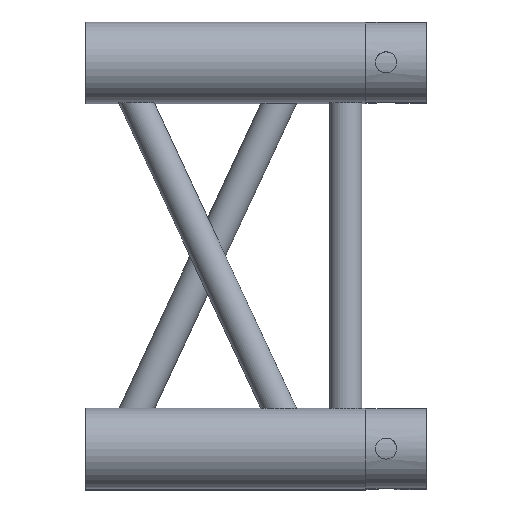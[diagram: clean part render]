
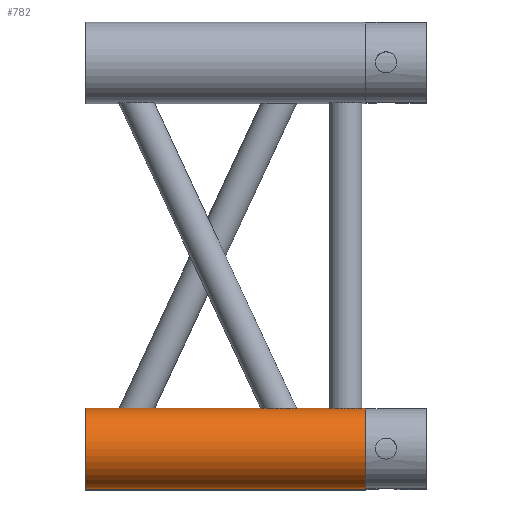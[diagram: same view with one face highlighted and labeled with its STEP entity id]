
A CAD part, top view. The second image highlights one B-rep face of the part: STEP entity #782.
In plain terms, the highlighted cylindrical face has radius 250 mm (diameter 500 mm), a full revolution.
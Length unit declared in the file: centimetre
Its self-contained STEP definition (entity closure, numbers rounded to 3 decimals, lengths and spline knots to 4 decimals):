
#62=CIRCLE('',#890,25.);
#63=CIRCLE('',#892,25.);
#98=FACE_BOUND('',#281,.T.);
#99=FACE_BOUND('',#282,.T.);
#100=FACE_BOUND('',#283,.T.);
#101=FACE_BOUND('',#284,.T.);
#102=FACE_BOUND('',#285,.T.);
#130=CYLINDRICAL_SURFACE('',#891,25.);
#188=FACE_OUTER_BOUND('',#280,.T.);
#280=EDGE_LOOP('',(#648));
#281=EDGE_LOOP('',(#649,#650));
#282=EDGE_LOOP('',(#651,#652));
#283=EDGE_LOOP('',(#653,#654));
#284=EDGE_LOOP('',(#655,#656));
#285=EDGE_LOOP('',(#657));
#319=LINE('',#1161,#335);
#323=LINE('',#1192,#339);
#328=LINE('',#1227,#344);
#333=LINE('',#1618,#349);
#335=VECTOR('',#923,10.);
#339=VECTOR('',#963,10.);
#344=VECTOR('',#1008,10.);
#349=VECTOR('',#1093,10.);
#353=VERTEX_POINT('',#1159);
#354=VERTEX_POINT('',#1160);
#362=VERTEX_POINT('',#1190);
#363=VERTEX_POINT('',#1191);
#372=VERTEX_POINT('',#1225);
#373=VERTEX_POINT('',#1226);
#398=VERTEX_POINT('',#1616);
#399=VERTEX_POINT('',#1617);
#406=VERTEX_POINT('',#1797);
#407=VERTEX_POINT('',#1800);
#420=EDGE_CURVE('',#353,#354,#319,.T.);
#433=EDGE_CURVE('',#362,#363,#323,.T.);
#448=EDGE_CURVE('',#372,#373,#328,.T.);
#478=EDGE_CURVE('',#398,#399,#333,.T.);
#488=EDGE_CURVE('',#406,#406,#62,.T.);
#489=EDGE_CURVE('',#407,#407,#63,.T.);
#648=ORIENTED_EDGE('',*,*,#488,.T.);
#649=ORIENTED_EDGE('',*,*,#420,.T.);
#650=ORIENTED_EDGE('',*,*,#420,.F.);
#651=ORIENTED_EDGE('',*,*,#433,.T.);
#652=ORIENTED_EDGE('',*,*,#433,.F.);
#653=ORIENTED_EDGE('',*,*,#448,.T.);
#654=ORIENTED_EDGE('',*,*,#448,.F.);
#655=ORIENTED_EDGE('',*,*,#478,.T.);
#656=ORIENTED_EDGE('',*,*,#478,.F.);
#657=ORIENTED_EDGE('',*,*,#489,.T.);
#782=ADVANCED_FACE('',(#188,#98,#99,#100,#101,#102),#130,.T.);
#890=AXIS2_PLACEMENT_3D('',#1798,#1118,#1119);
#891=AXIS2_PLACEMENT_3D('',#1799,#1120,#1121);
#892=AXIS2_PLACEMENT_3D('',#1801,#1122,#1123);
#923=DIRECTION('',(1.,0.,0.));
#963=DIRECTION('',(1.,0.,0.));
#1008=DIRECTION('',(1.,0.,0.));
#1093=DIRECTION('',(1.,0.,0.));
#1118=DIRECTION('center_axis',(1.,0.,0.));
#1119=DIRECTION('ref_axis',(0.,0.,
-1.));
#1120=DIRECTION('center_axis',(1.,0.,0.));
#1121=DIRECTION('ref_axis',(0.,0.,
-1.));
#1122=DIRECTION('center_axis',(-1.,0.,0.));
#1123=DIRECTION('ref_axis',(0.,0.,
-1.));
#1159=CARTESIAN_POINT('',(-60.3208,-239.,314.));
#1160=CARTESIAN_POINT('',(-39.6153,-239.,314.));
#1161=CARTESIAN_POINT('',(0.,-239.,314.));
#1190=CARTESIAN_POINT('',(21.7825,-214.,339.));
#1191=CARTESIAN_POINT('',(43.8501,-214.,339.));
#1192=CARTESIAN_POINT('',(0.,-214.,339.));
#1225=CARTESIAN_POINT('',(64.25,-239.,314.));
#1226=CARTESIAN_POINT('',(84.25,-239.,314.));
#1227=CARTESIAN_POINT('',(0.,-239.,314.));
#1616=CARTESIAN_POINT('',(64.25,-214.,339.));
#1617=CARTESIAN_POINT('',(84.25,-214.,339.));
#1618=CARTESIAN_POINT('',(0.,-214.,339.));
#1797=CARTESIAN_POINT('',(-86.75,-239.,364.));
#1798=CARTESIAN_POINT('Origin',(-86.75,-239.,339.));
#1799=CARTESIAN_POINT('Origin',(0.,-239.,339.));
#1800=CARTESIAN_POINT('',(86.75,-239.,364.));
#1801=CARTESIAN_POINT('Origin',(86.75,-239.,339.));
